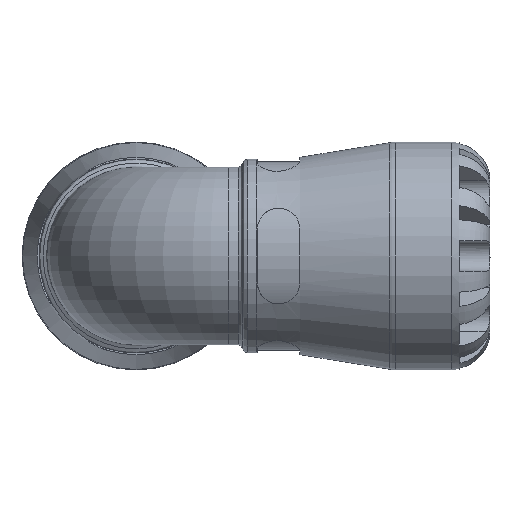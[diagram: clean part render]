
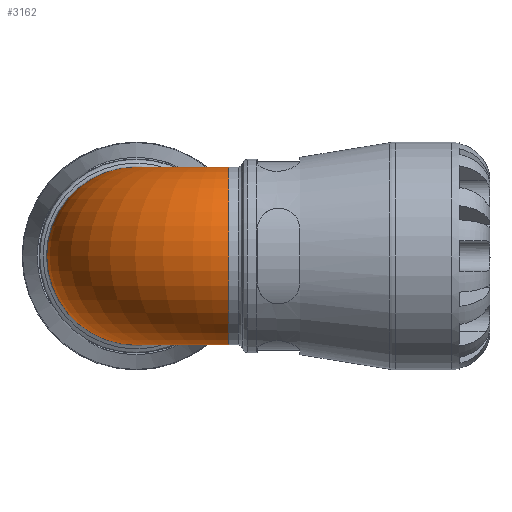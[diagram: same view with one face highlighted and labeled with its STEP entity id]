
A CAD part, front view. The second image highlights one B-rep face of the part: STEP entity #3162.
In plain terms, the highlighted toroidal (fillet/blend) face has major radius 19.093 mm and minor radius 18.33 mm.
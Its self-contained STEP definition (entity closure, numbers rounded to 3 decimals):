
#647=FACE_BOUND('',#881,.T.);
#683=FACE_OUTER_BOUND('',#880,.T.);
#880=EDGE_LOOP('',(#2038));
#881=EDGE_LOOP('',(#2039));
#1112=CIRCLE('',#3363,18.33);
#1113=CIRCLE('',#3364,18.33);
#1282=VERTEX_POINT('',#4626);
#1283=VERTEX_POINT('',#4628);
#1580=EDGE_CURVE('',#1282,#1282,#1112,.T.);
#1581=EDGE_CURVE('',#1283,#1283,#1113,.T.);
#2038=ORIENTED_EDGE('',*,*,#1580,.F.);
#2039=ORIENTED_EDGE('',*,*,#1581,.F.);
#2953=TOROIDAL_SURFACE('',#3362,19.093,18.33);
#3162=ADVANCED_FACE('',(#683,#647),#2953,.T.);
#3362=AXIS2_PLACEMENT_3D('',#4625,#3733,#3734);
#3363=AXIS2_PLACEMENT_3D('',#4627,#3735,#3736);
#3364=AXIS2_PLACEMENT_3D('',#4629,#3737,#3738);
#3733=DIRECTION('center_axis',(0.,0.,1.));
#3734=DIRECTION('ref_axis',(1.,0.,0.));
#3735=DIRECTION('center_axis',(1.,0.,0.));
#3736=DIRECTION('ref_axis',(0.,0.,-1.));
#3737=DIRECTION('center_axis',(0.,1.,0.));
#3738=DIRECTION('ref_axis',(0.,0.,-1.));
#4625=CARTESIAN_POINT('Origin',(19.093,19.093,0.));
#4626=CARTESIAN_POINT('',(19.093,18.33,0.));
#4627=CARTESIAN_POINT('Origin',(19.093,0.,0.));
#4628=CARTESIAN_POINT('',(0.,19.093,-18.33));
#4629=CARTESIAN_POINT('Origin',(0.,19.093,0.));
